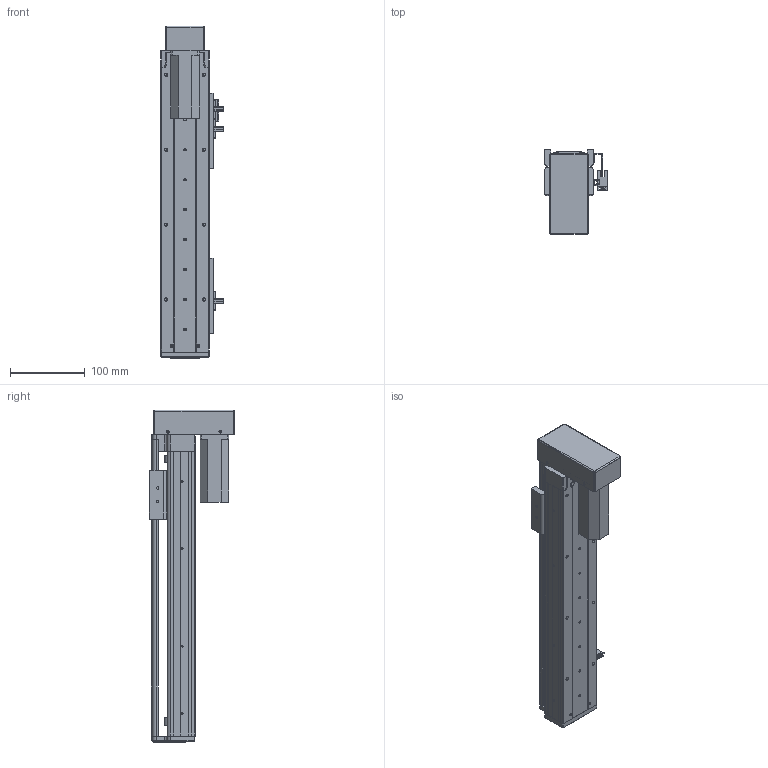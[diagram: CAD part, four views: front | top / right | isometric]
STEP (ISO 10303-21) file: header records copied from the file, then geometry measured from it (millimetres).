
FILE_DESCRIPTION (( 'STEP AP203' ), '1' );
FILE_NAME ('RY60-L1210-300-BK.SLDASM_250.step', '2021-02-20T06:42:04', ( '盈信电脑' ), ( '东莞市道滘镇水果街19号' ), 'SwSTEP 2.0', 'SolidWorks 2012', '' );
FILE_SCHEMA (( 'CONFIG_CONTROL_DESIGN' ));
Length unit declared in the file: millimetre
Products named in the file (13): RY60-L1210-300-BK.SLDASM_250; 滅袉蝶18-10; RY60狟殏萇儂欶100W; 侂狟100W; RY60转折电机端支撑座; RY80俋离覜茼え; RY60狟殏萇儂假蚾啣; 672嫖萇羲壽假蚾釱; RY60綴裔啣; 覜茼ん672; RY60-300倰第裔啣-BK_250; RY60臏賑輸; RY60-300倰第菁釱-BK_250
Assembly tree (18 placements, depth 2):
  RY60-L1210-300-BK.SLDASM_250
    RY60-300倰第菁釱-BK_250
    RY60臏賑輸
    RY60-300倰第裔啣-BK_250
    672嫖萇羲壽假蚾釱  x2
    RY60綴裔啣
    覜茼ん672  x3
    RY80俋离覜茼え
    RY60转折电机端支撑座
    RY60狟殏萇儂假蚾啣
    侂狟100W
    RY60狟殏萇儂欶100W
    滅袉蝶18-10  x4
Bounding box: 83.7 x 113.5 x 443 mm (x, y, z)
Volume: 676783 mm3; surface area: 330461.5 mm2
Topology: 18 solids, 18 shells, 1380 faces, 3830 edges, 2454 vertices
Faces by surface type: plane 695, cylinder 566, cone 102, bspline 17
Entity records: 40381 total; most frequent: CARTESIAN_POINT 9269, ORIENTED_EDGE 6240, DIRECTION 6088, EDGE_CURVE 3120, AXIS2_PLACEMENT_3D 2083, VERTEX_POINT 2034, VECTOR 1922, LINE 1922
